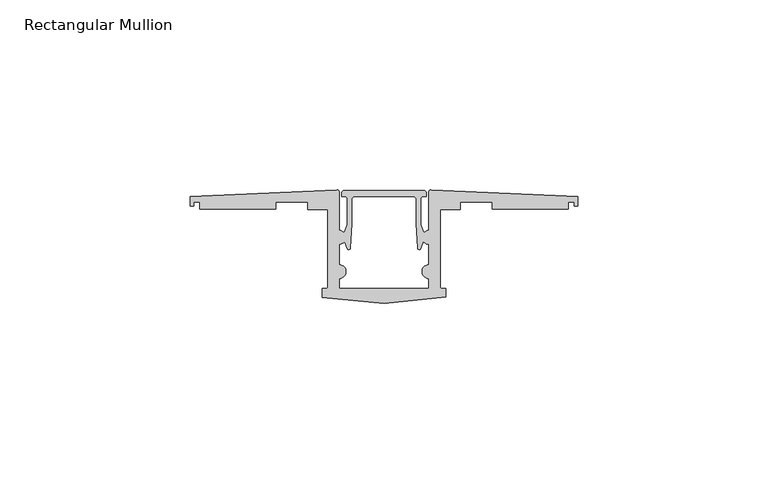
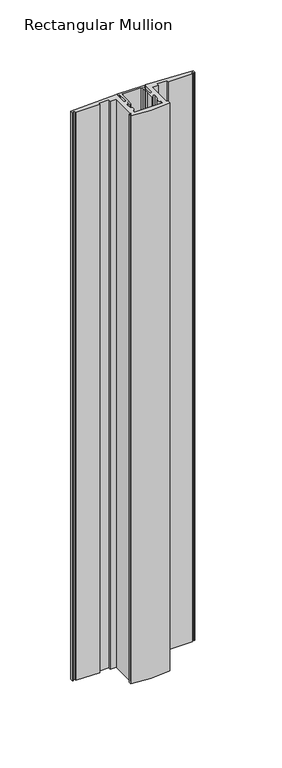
"""IFC4 building model written with IfcOpenShell, lengths in millimetres: member geometry, Rectangular Mullion : TE-H-01_03_Joint HF102."""

import ifcopenshell
import ifcopenshell.guid

model = None  # the IFC model being written
_history = None  # IfcOwnerHistory: only IFC2X3 demands one
_inside = {}  # id of a spatial element -> (the spatial element, [elements in it])
_under = {}  # id of a project, library or spatial element -> (it, [spatial elements below it])
_declared = {}  # id of a project -> (the project, [libraries it declares])
_typed = {}  # id of a type object -> (the type object, [elements of that type])
_made_of = {}  # id of a material, layer set ... -> (it, [elements and type objects made of it])


def new_model(schema):
    """Start an empty IFC model of exactly this schema.

    Asked for "IFC4X3", IfcOpenShell would pick the latest addendum, in which some entities
    have other attributes; the version numbers below select the first issue.
    IFC2X3 requires an IfcOwnerHistory on every rooted entity: one is made here for all.
    """
    global model, _history
    if schema == "IFC4X3":
        model = ifcopenshell.file(schema_version=(4, 3, 0, 0))
    else:
        model = ifcopenshell.file(schema=schema)
    _inside.clear()
    _under.clear()
    _declared.clear()
    _typed.clear()
    _made_of.clear()
    _history = None
    if model.schema == "IFC2X3":
        org = make("IfcOrganization", Name="unknown")
        user = make(
            "IfcPersonAndOrganization",
            ThePerson=make("IfcPerson", FamilyName="unknown"),
            TheOrganization=org,
        )
        app = make(
            "IfcApplication",
            ApplicationDeveloper=org,
            Version="unknown",
            ApplicationFullName="unknown",
            ApplicationIdentifier="unknown",
        )
        _history = make(
            "IfcOwnerHistory",
            OwningUser=user,
            OwningApplication=app,
            ChangeAction="ADDED",
            CreationDate=0,
        )
    return model


def make(cls, **values):
    """One entity of the class cls with the attributes given. An attribute that is None is left unset."""
    return model.create_entity(
        cls, **{name: value for name, value in values.items() if value is not None}
    )


def rooted(cls, **values):
    """An entity with a GlobalId (a new one), such as an element, a storey or a relation."""
    return make(cls, GlobalId=ifcopenshell.guid.new(), OwnerHistory=_history, **values)


def si_unit(unit_type, name, prefix=None):
    """IfcSIUnit, for example si_unit("LENGTHUNIT", "METRE", prefix="MILLI")."""
    return make("IfcSIUnit", UnitType=unit_type, Prefix=prefix, Name=name)


def assignment(units):
    """IfcUnitAssignment: the units of a project."""
    return None if units is None else make("IfcUnitAssignment", Units=units)


def point(xyz):
    """IfcCartesianPoint."""
    return None if xyz is None else make("IfcCartesianPoint", Coordinates=xyz)


def direction(xyz):
    """IfcDirection."""
    return None if xyz is None else make("IfcDirection", DirectionRatios=xyz)


def frame(location, z_axis=None, x_axis=None):
    """IfcAxis2Placement3D, a coordinate frame: its origin and axes. An axis left out is left unset."""
    return make(
        "IfcAxis2Placement3D",
        Location=point(location),
        Axis=direction(z_axis),
        RefDirection=direction(x_axis),
    )


def frame_2d(location, x_axis=None):
    """IfcAxis2Placement2D, a coordinate frame in the plane: its origin and x axis."""
    return make(
        "IfcAxis2Placement2D", Location=point(location), RefDirection=direction(x_axis)
    )


def origin():
    """The frame at (0, 0, 0) with its axes left unset."""
    return frame((0.0, 0.0, 0.0))


def place(relative_to, where):
    """IfcLocalPlacement: puts the frame where relative to a parent placement (None: the world)."""
    return make(
        "IfcLocalPlacement", PlacementRelTo=relative_to, RelativePlacement=where
    )


def context(
    kind, dimensions, precision=None, world=None, true_north=None, identifier=None
):
    """IfcGeometricRepresentationContext, for example the 3D "Model" context."""
    return make(
        "IfcGeometricRepresentationContext",
        ContextIdentifier=identifier,
        ContextType=kind,
        CoordinateSpaceDimension=dimensions,
        Precision=precision,
        WorldCoordinateSystem=world,
        TrueNorth=true_north,
    )


def project(units=None, contexts=None):
    """IfcProject with its units and contexts."""
    return rooted(
        "IfcProject",
        Name="project",
        RepresentationContexts=contexts,
        UnitsInContext=assignment(units),
    )


def spatial(cls, under=None, at=None, **own):
    """A site, building, storey or space (cls), placed at a placement, below another one or the project."""
    s = rooted(cls, ObjectPlacement=at, **own)
    if under is not None:
        _under.setdefault(under.id(), (under, []))[1].append(s)
    return s


def polyline(points):
    """IfcPolyline through the points."""
    return make("IfcPolyline", Points=[point(p) for p in points])


def circle_curve(where, radius):
    """IfcCircle in the frame where."""
    return make("IfcCircle", Position=where, Radius=radius)


def trimmed(basis, trim1, trim2, sense, master):
    """IfcTrimmedCurve: the piece of a basis curve between two trims."""
    return make(
        "IfcTrimmedCurve",
        BasisCurve=basis,
        Trim1=trim1,
        Trim2=trim2,
        SenseAgreement=sense,
        MasterRepresentation=master,
    )


def segment(curve, same_sense, transition):
    """IfcCompositeCurveSegment."""
    return make(
        "IfcCompositeCurveSegment",
        Transition=transition,
        SameSense=same_sense,
        ParentCurve=curve,
    )


def composite_curve(segments, self_intersect=None):
    """IfcCompositeCurve: segments joined end to end."""
    return make("IfcCompositeCurve", Segments=segments, SelfIntersect=self_intersect)


def outline(outer, holes=None, kind="AREA"):
    """IfcArbitraryClosedProfileDef: a profile drawn as a closed curve; with holes, ...WithVoids."""
    if holes is None:
        return make("IfcArbitraryClosedProfileDef", ProfileType=kind, OuterCurve=outer)
    return make(
        "IfcArbitraryProfileDefWithVoids",
        ProfileType=kind,
        OuterCurve=outer,
        InnerCurves=holes,
    )


def extrude(swept, where, along, depth):
    """IfcExtrudedAreaSolid: the profile swept, set in the frame where, extruded along a direction by depth."""
    return make(
        "IfcExtrudedAreaSolid",
        SweptArea=swept,
        Position=where,
        ExtrudedDirection=direction(along),
        Depth=depth,
    )


def shape(context_of_items, identifier, shape_type, items):
    """IfcShapeRepresentation: the items that make up one representation, for example the "Body"."""
    return make(
        "IfcShapeRepresentation",
        ContextOfItems=context_of_items,
        RepresentationIdentifier=identifier,
        RepresentationType=shape_type,
        Items=items,
    )


def source(mapping_origin, context_of_items, identifier, shape_type, items):
    """IfcRepresentationMap: a shape defined once, which mapped items show again and again."""
    return make(
        "IfcRepresentationMap",
        MappingOrigin=mapping_origin,
        MappedRepresentation=shape(context_of_items, identifier, shape_type, items),
    )


def transform(
    local_origin,
    x_axis=None,
    y_axis=None,
    z_axis=None,
    scale=None,
    scale2=None,
    scale3=None,
    uniform=True,
):
    """IfcCartesianTransformationOperator3D, or its non-uniform kind. x_axis, y_axis, z_axis: its Axis1, 2, 3."""
    if uniform:
        return make(
            "IfcCartesianTransformationOperator3D",
            Axis1=direction(x_axis),
            Axis2=direction(y_axis),
            LocalOrigin=point(local_origin),
            Scale=scale,
            Axis3=direction(z_axis),
        )
    return make(
        "IfcCartesianTransformationOperator3DnonUniform",
        Axis1=direction(x_axis),
        Axis2=direction(y_axis),
        LocalOrigin=point(local_origin),
        Scale=scale,
        Axis3=direction(z_axis),
        Scale2=scale2,
        Scale3=scale3,
    )


def mapped(mapping_source, mapping_target):
    """IfcMappedItem: shows the shape of a source again, moved by a transform."""
    return make(
        "IfcMappedItem", MappingSource=mapping_source, MappingTarget=mapping_target
    )


def made_of(thing, what):
    """Note that an element or type object is made of a material, layer set ...; save() writes the relation."""
    if what is not None:
        _made_of.setdefault(what.id(), (what, []))[1].append(thing)
    return thing


def element(
    cls,
    number,
    at=None,
    inside=None,
    cuts=None,
    type_object=None,
    material=None,
    context=None,
    identifier="Body",
    shape_type=None,
    held_by="IfcProductDefinitionShape",
    body=None,
    shapes=None,
    **own,
):
    """One element of the class cls, such as IfcWall. Its Tag is "e" and its number.

    at: its placement. inside: the storey or other place that contains it. cuts: it is an
    opening in that element (IfcRelVoidsElement). A single representation is given by context,
    identifier, shape_type and body (its items); several are given by shapes. held_by: the class
    of the entity that holds the representations. save() writes the other relations.
    """
    e = rooted(cls, Tag="e%d" % number, ObjectPlacement=at, **own)
    if body is not None:
        shapes = [shape(context, identifier, shape_type, body)]
    if shapes is not None:
        e.Representation = make(held_by, Representations=shapes)
    if inside is not None:
        _inside.setdefault(inside.id(), (inside, []))[1].append(e)
    if cuts is not None:
        rooted(
            "IfcRelVoidsElement", RelatingBuildingElement=cuts, RelatedOpeningElement=e
        )
    if type_object is not None:
        _typed.setdefault(type_object.id(), (type_object, []))[1].append(e)
    return made_of(e, material)


def aggregate(whole, parts):
    """IfcRelAggregates: a whole, such as a stair, and the parts it consists of."""
    return rooted("IfcRelAggregates", RelatingObject=whole, RelatedObjects=parts)


def save(model, path):
    """Write the relations noted so far, then the file.

    IfcRelAggregates (storeys below a building ...), IfcRelContainedInSpatialStructure (elements
    in a storey), IfcRelDefinesByType, IfcRelAssociatesMaterial and IfcRelDeclares: one each for
    every whole, place, type object, material and project.
    """
    for whole, parts in _under.values():
        aggregate(whole, parts)
    for where, things in _inside.values():
        rooted(
            "IfcRelContainedInSpatialStructure",
            RelatedElements=things,
            RelatingStructure=where,
        )
    for kind, things in _typed.values():
        rooted("IfcRelDefinesByType", RelatedObjects=things, RelatingType=kind)
    for what, things in _made_of.values():
        rooted("IfcRelAssociatesMaterial", RelatedObjects=things, RelatingMaterial=what)
    for by, libraries in _declared.values():
        rooted("IfcRelDeclares", RelatingContext=by, RelatedDefinitions=libraries)
    model.write(path)


def rectangular_mullion_3d825509(model_context):
    return source(origin(), model_context, "Body", "SweptSolid", [
        extrude(outline(composite_curve([segment(polyline([(-16.3, -20.7636928), (-15.35, -20.7636928)]), True, "CONTINUOUS"), segment(trimmed(circle_curve(frame_2d((-15.35, -20.2136928)), 0.55), [point((-15.35, -20.7636928))], [point((-14.8, -20.2136928))], True, "CARTESIAN"), True, "CONTINUOUS"), segment(polyline([(-14.8, -20.2136928), (-14.8, 0.0), (-20.0, 0.0), (-20.0, 2.0), (-28.4182257, 2.0), (-28.4182257, 0.2), (-48.4182257, 0.2), (-48.4182257, 2.0), (-50.0239552, 2.0), (-50.0239552, 1.0305469), (-51.002067, 1.0305469), (-51.002067, 3.421028), (-12.3757889, 5.2341639)]), True, "CONTINUOUS"), segment(trimmed(circle_curve(frame_2d((-12.35, 4.6847689)), 0.55), [point((-12.3757889, 5.2341639))], [point((-11.8, 4.6847689))], False, "CARTESIAN"), True, "CONTINUOUS"), segment(polyline([(-11.8, 4.6847689), (-11.8, -5.4634871)]), True, "CONTINUOUS"), segment(trimmed(circle_curve(frame_2d((-11.8, -7.2634871)), 1.8), [point((-11.8, -5.4634871))], [point((-11.8, -9.0634871))], False, "CARTESIAN"), True, "CONTINUOUS"), segment(polyline([(-11.8, -9.0634871), (-11.8, -14.4634871)]), True, "CONTINUOUS"), segment(trimmed(circle_curve(frame_2d((-11.8, -16.2634871)), 1.8), [point((-11.8, -14.4634871))], [point((-11.8, -18.0634871))], False, "CARTESIAN"), True, "CONTINUOUS"), segment(polyline([(-11.8, -18.0634871), (-11.8, -20.7636928), (11.8, -20.7636928), (11.8, -18.0634871)]), True, "CONTINUOUS"), segment(trimmed(circle_curve(frame_2d((11.8, -16.2634871)), 1.8), [point((11.8, -18.0634871))], [point((11.8, -14.4634871))], False, "CARTESIAN"), True, "CONTINUOUS"), segment(polyline([(11.8, -14.4634871), (11.8, -9.0634871)]), True, "CONTINUOUS"), segment(trimmed(circle_curve(frame_2d((11.8, -7.2634871)), 1.8), [point((11.8, -9.0634871))], [point((10.3835688, -8.3742178))], False, "CARTESIAN"), True, "CONTINUOUS"), segment(polyline([(10.3835688, -8.3742178), (9.6235001, -10.23606)]), True, "CONTINUOUS"), segment(trimmed(circle_curve(frame_2d((9.2715591, -10.0931911)), 0.3798342), [point((9.6235001, -10.23606))], [point((8.8921936, -10.1120555))], False, "CARTESIAN"), True, "CONTINUOUS"), segment(polyline([(8.8921936, -10.1120555), (8.5126282, -3.7696514), (8.5126282, 2.5482227)]), True, "CONTINUOUS"), segment(trimmed(circle_curve(frame_2d((7.5126282, 2.5482227)), 1.0), [point((8.5126282, 2.5482227))], [point((7.5126282, 3.5482227))], True, "CARTESIAN"), True, "CONTINUOUS"), segment(polyline([(7.5126282, 3.5482227), (-7.5126282, 3.5482227)]), True, "CONTINUOUS"), segment(trimmed(circle_curve(frame_2d((-7.5126282, 2.5482227)), 1.0), [point((-7.5126282, 3.5482227))], [point((-8.5126282, 2.5482227))], True, "CARTESIAN"), True, "CONTINUOUS"), segment(polyline([(-8.5126282, 2.5482227), (-8.5126282, -3.7696514), (-8.8921936, -10.1120555)]), True, "CONTINUOUS"), segment(trimmed(circle_curve(frame_2d((-9.2715591, -10.0931911)), 0.3798342), [point((-8.8921936, -10.1120555))], [point((-9.6235002, -10.2360599))], False, "CARTESIAN"), True, "CONTINUOUS"), segment(polyline([(-9.6235002, -10.2360599), (-10.3404276, -8.4798952)]), True, "CONTINUOUS"), segment(trimmed(circle_curve(frame_2d((-11.8, -7.2634871)), 1.9), [point((-10.3404276, -8.4798952))], [point((-10.4433575, -5.9332537))], True, "CARTESIAN"), True, "CONTINUOUS"), segment(polyline([(-10.4433575, -5.9332537), (-9.7126284, -3.8448708), (-9.7126284, 2.9982227)]), True, "CONTINUOUS"), segment(trimmed(circle_curve(frame_2d((-10.2626284, 2.9982227)), 0.55), [point((-9.7126284, 2.9982227))], [point((-10.2626284, 3.5482227))], True, "CARTESIAN"), True, "CONTINUOUS"), segment(polyline([(-10.2626284, 3.5482227), (-11.0624892, 3.5482227), (-11.0624892, 4.4982227)]), True, "CONTINUOUS"), segment(trimmed(circle_curve(frame_2d((-10.5124892, 4.4982227)), 0.55), [point((-11.0624892, 4.4982227))], [point((-10.5124892, 5.0482227))], False, "CARTESIAN"), True, "CONTINUOUS"), segment(polyline([(-10.5124892, 5.0482227), (10.5124892, 5.0482227)]), True, "CONTINUOUS"), segment(trimmed(circle_curve(frame_2d((10.5124892, 4.4982227)), 0.55), [point((10.5124892, 5.0482227))], [point((11.0624892, 4.4982227))], False, "CARTESIAN"), True, "CONTINUOUS"), segment(polyline([(11.0624892, 4.4982227), (11.0624892, 3.5482227), (10.2626284, 3.5482227)]), True, "CONTINUOUS"), segment(trimmed(circle_curve(frame_2d((10.2626284, 2.9982227)), 0.55), [point((10.2626284, 3.5482227))], [point((9.7126284, 2.9982227))], True, "CARTESIAN"), True, "CONTINUOUS"), segment(polyline([(9.7126284, 2.9982227), (9.7126284, -3.8448708), (10.4804437, -6.039244)]), True, "CONTINUOUS"), segment(trimmed(circle_curve(frame_2d((11.8, -7.2634871)), 1.8), [point((10.4804437, -6.039244))], [point((11.8, -5.4634871))], False, "CARTESIAN"), True, "CONTINUOUS"), segment(polyline([(11.8, -5.4634871), (11.8, 4.6847689)]), True, "CONTINUOUS"), segment(trimmed(circle_curve(frame_2d((12.35, 4.6847689)), 0.55), [point((11.8, 4.6847689))], [point((12.3757889, 5.2341639))], False, "CARTESIAN"), True, "CONTINUOUS"), segment(polyline([(12.3757889, 5.2341639), (51.002067, 3.421028), (51.002067, 1.0305469), (50.0239552, 1.0305469), (50.0239552, 2.0), (48.4182257, 2.0), (48.4182257, 0.2), (28.4182257, 0.2), (28.4182257, 2.0), (20.0, 2.0), (20.0, 0.0), (14.8, 0.0), (14.8, -20.2136928)]), True, "CONTINUOUS"), segment(trimmed(circle_curve(frame_2d((15.35, -20.2136928)), 0.55), [point((14.8, -20.2136928))], [point((15.35, -20.7636928))], True, "CARTESIAN"), True, "CONTINUOUS"), segment(polyline([(15.35, -20.7636928), (16.3, -20.7636928), (16.3, -22.9365782)]), True, "CONTINUOUS"), segment(trimmed(circle_curve(frame_2d((-0.3778425, 55.077345)), 79.7767048), [point((16.3, -22.9365782))], [point((-16.3, -23.0943093))], False, "CARTESIAN"), True, "CONTINUOUS"), segment(polyline([(-16.3, -23.0943093), (-16.3, -20.7636928)]), True, "CONTINUOUS")], self_intersect=False)), frame((0.0, 0.0, -500.0), z_axis=(0.0, 0.0, 1.0), x_axis=(1.0, 0.0, 0.0)), (0.0, 0.0, 1.0), 500.0),
    ])


if __name__ == "__main__":
    model = new_model("IFC4")
    model_context = context("Model", 3, world=origin())
    ifc_project = project(units=[si_unit("LENGTHUNIT", "METRE", prefix="MILLI")], contexts=[model_context])
    site = spatial("IfcSite", under=ifc_project)
    building = spatial("IfcBuilding", under=site)
    placement = place(None, origin())
    rectangular_mullion_shape = rectangular_mullion_3d825509(model_context)
    element("IfcMember", 1, ObjectType="Rectangular Mullion : TE-H-01_03_Joint HF102", at=placement, inside=building, context=model_context, shape_type="MappedRepresentation", body=[
        mapped(rectangular_mullion_shape, transform((0.0, 0.0, 0.0), x_axis=(1.0, 0.0, 0.0), y_axis=(0.0, 1.0, 0.0), z_axis=(0.0, 0.0, 1.0))),
    ])
    save(model, "model.ifc")
